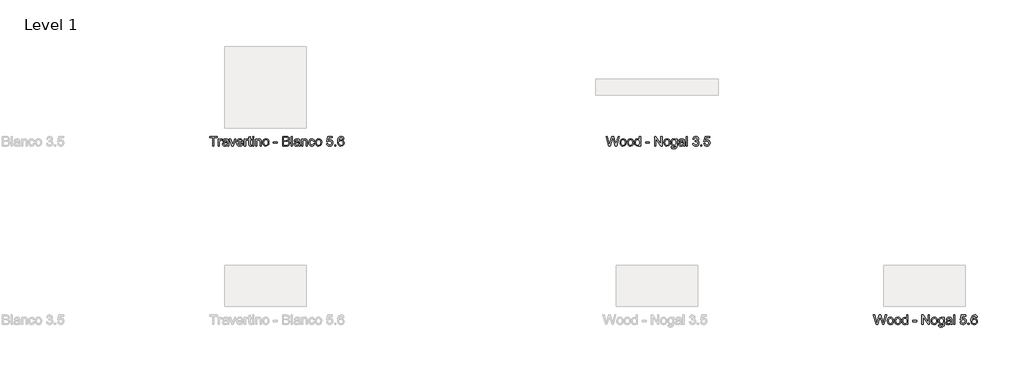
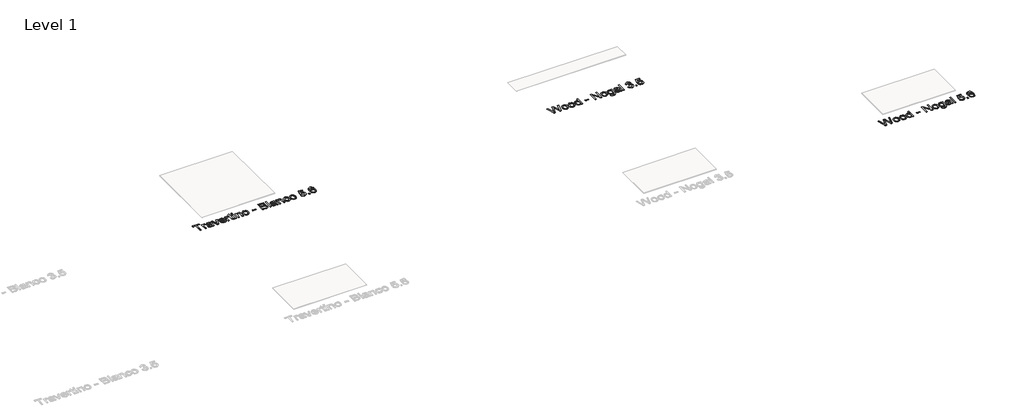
# One storey, part 21 of 80: 3 proxies.
"""IFC4 building model written with IfcOpenShell, lengths in millimetres."""

from ifc_helpers import new_model, si_unit, origin, origin_with_axes, place, context, project, spatial, polyline, outline, extrude, element, save

model = new_model("IFC4")

# Units and contexts
model_context = context("Model", 3, world=origin())
ifc_project = project(units=[si_unit("LENGTHUNIT", "METRE", prefix="MILLI")], contexts=[model_context])

# Site, building, storey
site = spatial("IfcSite", under=ifc_project)
building = spatial("IfcBuilding", under=site)
storey = spatial("IfcBuildingStorey", under=building, Name="Level 1", Elevation=0.0)

# Proxies
placement = place(None, origin())
element("IfcBuildingElementProxy", 1, Name="24\" Arial", ObjectType="24\" Arial", at=placement, inside=storey, context=model_context, shape_type="SweptSolid", body=[
    extrude(outline(polyline([(-15856.3068771, -10230.2191462), (-15856.3068771, -10126.8345308), (-15895.0761079, -10126.8345308), (-15895.0761079, -10112.0653001), (-15802.7684156, -10112.0653001), (-15802.7684156, -10126.8345308), (-15841.5376464, -10126.8345308), (-15841.5376464, -10230.2191462), (-15856.3068771, -10230.2191462)])), origin_with_axes(), (0.0, 0.0, 1.0), 2.0),
    extrude(outline(polyline([(-15787.9991848, -10230.2191462), (-15787.9991848, -10143.4499154), (-15775.0761079, -10143.4499154), (-15775.0761079, -10156.2864539), (-15765.903031, -10144.4595308), (-15756.6722617, -10141.6037616), (-15741.8453387, -10146.1614539), (-15746.778031, -10159.4018385), (-15757.1626464, -10156.3729924), (-15765.5136079, -10159.2864539), (-15770.8357233, -10167.363377), (-15773.2299541, -10184.613377), (-15773.2299541, -10230.2191462), (-15787.9991848, -10230.2191462)])), origin_with_axes(), (0.0, 0.0, 1.0), 2.0),
    extrude(outline(polyline([(-15677.2299541, -10219.1422231), (-15691.5520694, -10229.1518385), (-15707.3741848, -10232.0653001), (-15719.7167329, -10230.3128962), (-15728.8213002, -10225.0556847), (-15734.4354829, -10217.0725116), (-15736.3068771, -10207.1422231), (-15733.4799541, -10195.4595308), (-15726.0520694, -10186.9787616), (-15715.7107233, -10182.1326077), (-15702.9318771, -10179.9114539), (-15677.3164925, -10174.8345308), (-15677.2299541, -10171.5460693), (-15681.2972617, -10160.6422231), (-15697.6241848, -10156.3729924), (-15712.5664925, -10159.2143385), (-15719.6914925, -10169.2960693), (-15734.4607233, -10167.4499154), (-15728.0713002, -10153.0268385), (-15715.2059156, -10144.5749154), (-15695.7203387, -10141.6037616), (-15677.8213002, -10144.2287616), (-15667.7107233, -10150.8201077), (-15663.1818771, -10160.8441462), (-15662.4607233, -10173.7672231), (-15662.4607233, -10192.1422231), (-15661.7107233, -10217.800877), (-15658.7684156, -10230.2191462), (-15673.5376464, -10230.2191462), (-15677.2299541, -10219.1422231)]), holes=[polyline([(-15677.2299541, -10189.6037616), (-15701.0568771, -10194.1326077), (-15713.7636079, -10196.5268385), (-15719.5184156, -10200.4210693), (-15721.5376464, -10206.1037616), (-15717.1386079, -10214.0941462), (-15704.2299541, -10217.2960693), (-15689.2876464, -10213.7624154), (-15679.653031, -10205.2095308), (-15677.3164925, -10193.7864539), (-15677.2299541, -10189.6037616)])]), origin_with_axes(), (0.0, 0.0, 1.0), 2.0),
    extrude(outline(polyline([(-15620.8645694, -10230.2191462), (-15651.3838002, -10143.4499154), (-15635.7491848, -10143.4499154), (-15617.2588002, -10195.4306847), (-15611.6914925, -10212.9114539), (-15606.2395694, -10196.4114539), (-15587.6338002, -10143.4499154), (-15571.9991848, -10143.4499154), (-15602.1434156, -10230.2191462), (-15620.8645694, -10230.2191462)])), origin_with_axes(), (0.0, 0.0, 1.0), 2.0),
    extrude(outline(polyline([(-15498.3261079, -10204.3729924), (-15483.8453387, -10206.2191462), (-15489.0628867, -10217.1302039), (-15497.3886079, -10225.2864539), (-15508.6350021, -10230.3705885), (-15522.6145694, -10232.0653001), (-15539.9438964, -10229.1410212), (-15553.278031, -10220.3681847), (-15561.7804348, -10206.316502), (-15564.6145694, -10187.5556847), (-15561.7515887, -10168.1638577), (-15553.1626464, -10153.6614539), (-15540.0088002, -10144.6181847), (-15523.4511079, -10141.6037616), (-15507.4090406, -10144.6109731), (-15494.590531, -10153.6326077), (-15486.1854829, -10168.1061654), (-15483.3838002, -10187.4691462), (-15483.4703387, -10191.4499154), (-15549.8453387, -10191.4499154), (-15547.2888483, -10202.5052039), (-15541.3501464, -10210.6326077), (-15532.7792329, -10215.6302039), (-15522.3261079, -10217.2960693), (-15507.8453387, -10214.2095308), (-15498.3261079, -10204.3729924)]), holes=[polyline([(-15549.8453387, -10176.6806847), (-15498.153031, -10176.6806847), (-15504.0664925, -10163.2960693), (-15512.6770694, -10158.1037616), (-15523.5088002, -10156.3729924), (-15541.6963002, -10161.8970308), (-15547.418656, -10168.3549635), (-15549.8453387, -10176.6806847)])]), origin_with_axes(), (0.0, 0.0, 1.0), 2.0),
    extrude(outline(polyline([(-15468.6145694, -10230.2191462), (-15468.6145694, -10143.4499154), (-15455.6914925, -10143.4499154), (-15455.6914925, -10156.2864539), (-15446.5184156, -10144.4595308), (-15437.2876464, -10141.6037616), (-15422.4607233, -10146.1614539), (-15427.3934156, -10159.4018385), (-15437.778031, -10156.3729924), (-15446.1289925, -10159.2864539), (-15451.4511079, -10167.363377), (-15453.8453387, -10184.613377), (-15453.8453387, -10230.2191462), (-15468.6145694, -10230.2191462)])), origin_with_axes(), (0.0, 0.0, 1.0), 2.0),
    extrude(outline(polyline([(-15381.8453387, -10217.9018385), (-15379.9991848, -10230.6518385), (-15391.0472617, -10232.0653001), (-15403.4222617, -10229.613377), (-15409.5953387, -10223.1806847), (-15411.3838002, -10206.4210693), (-15411.3838002, -10158.2191462), (-15422.4607233, -10158.2191462), (-15422.4607233, -10143.4499154), (-15411.3838002, -10143.4499154), (-15411.3838002, -10122.363377), (-15396.6145694, -10113.6806847), (-15396.6145694, -10143.4499154), (-15381.8453387, -10143.4499154), (-15381.8453387, -10158.2191462), (-15396.6145694, -10158.2191462), (-15396.6145694, -10205.988377), (-15395.8357233, -10213.6037616), (-15393.3116848, -10216.300877), (-15388.278031, -10217.2960693), (-15381.8453387, -10217.9018385)])), origin_with_axes(), (0.0, 0.0, 1.0), 2.0),
    extrude(outline(polyline([(-15367.0761079, -10126.8345308), (-15367.0761079, -10112.0653001), (-15352.3068771, -10112.0653001), (-15352.3068771, -10126.8345308), (-15367.0761079, -10126.8345308)])), origin_with_axes(), (0.0, 0.0, 1.0), 2.0),
    extrude(outline(polyline([(-15367.0761079, -10230.2191462), (-15367.0761079, -10143.4499154), (-15352.3068771, -10143.4499154), (-15352.3068771, -10230.2191462), (-15367.0761079, -10230.2191462)])), origin_with_axes(), (0.0, 0.0, 1.0), 2.0),
    extrude(outline(polyline([(-15330.153031, -10230.2191462), (-15330.153031, -10143.4499154), (-15315.3838002, -10143.4499154), (-15315.3838002, -10155.5653001), (-15304.090531, -10145.0941462), (-15288.6722617, -10141.6037616), (-15274.7251464, -10144.4162616), (-15265.2059156, -10151.800877), (-15260.778031, -10162.6614539), (-15259.9991848, -10176.9403001), (-15259.9991848, -10230.2191462), (-15274.7684156, -10230.2191462), (-15274.7684156, -10178.9306847), (-15276.4703387, -10165.863377), (-15282.4847617, -10158.9547231), (-15292.6241848, -10156.3729924), (-15308.6482233, -10162.1710693), (-15313.699906, -10170.5725116), (-15315.3838002, -10184.1806847), (-15315.3838002, -10230.2191462), (-15330.153031, -10230.2191462)])), origin_with_axes(), (0.0, 0.0, 1.0), 2.0),
    extrude(outline(polyline([(-15243.3838002, -10186.8345308), (-15240.1890887, -10165.9138577), (-15230.6049541, -10151.2095308), (-15218.7636079, -10144.0052039), (-15204.5857233, -10141.6037616), (-15189.0700983, -10144.5280404), (-15176.6770694, -10153.300877), (-15168.5532714, -10167.2299635), (-15165.8453387, -10185.6229924), (-15170.6338002, -10211.9018385), (-15184.5809156, -10226.7720308), (-15204.5857233, -10232.0653001), (-15220.2888483, -10229.1518385), (-15232.6674541, -10220.4114539), (-15240.7047137, -10206.1903001), (-15243.3838002, -10186.8345308)]), holes=[polyline([(-15228.6145694, -10186.8056847), (-15226.9054348, -10200.1722712), (-15221.778031, -10209.6951077), (-15214.0616848, -10215.3958289), (-15204.5857233, -10217.2960693), (-15195.153031, -10215.3850116), (-15187.4511079, -10209.6518385), (-15182.3237041, -10200.0028001), (-15180.6145694, -10186.3441462), (-15182.3345214, -10173.3669827), (-15187.4943771, -10163.9739539), (-15195.2071175, -10158.2732327), (-15204.5857233, -10156.3729924), (-15214.0616848, -10158.2660212), (-15221.778031, -10163.9451077), (-15226.9054348, -10173.4463097), (-15228.6145694, -10186.8056847)])]), origin_with_axes(), (0.0, 0.0, 1.0), 2.0),
    extrude(outline(polyline([(-15110.4607233, -10195.1422231), (-15110.4607233, -10180.3729924), (-15064.3068771, -10180.3729924), (-15064.3068771, -10195.1422231), (-15110.4607233, -10195.1422231)])), origin_with_axes(), (0.0, 0.0, 1.0), 2.0),
    extrude(outline(polyline([(-14999.6914925, -10230.2191462), (-14999.6914925, -10112.0653001), (-14954.6049541, -10112.0653001), (-14932.5232233, -10115.5412616), (-14919.4847617, -10126.2287616), (-14914.7684156, -10141.3441462), (-14918.7347617, -10155.1470308), (-14930.7203387, -10165.6037616), (-14916.1674541, -10176.6229924), (-14911.0761079, -10194.9979924), (-14914.5520694, -10210.8778001), (-14923.1626464, -10222.1854924), (-14936.0136079, -10228.1854924), (-14954.9511079, -10230.2191462), (-14999.6914925, -10230.2191462)]), holes=[polyline([(-14984.9222617, -10215.4499154), (-14954.6338002, -10215.4499154), (-14943.6722617, -10214.8729924), (-14934.3982233, -10211.6566462), (-14928.2539925, -10205.0941462), (-14925.8453387, -10195.1422231), (-14928.6722617, -10183.6614539), (-14937.8309156, -10176.8104924), (-14956.0761079, -10174.8345308), (-14984.9222617, -10174.8345308), (-14984.9222617, -10215.4499154)]), polyline([(-14984.9222617, -10160.0653001), (-14957.9511079, -10160.0653001), (-14942.2011079, -10158.7960693), (-14932.7251464, -10153.3297231), (-14929.5376464, -10143.7095308), (-14932.5088002, -10134.0749154), (-14941.0184156, -10128.3778001), (-14959.9991848, -10126.8345308), (-14984.9222617, -10126.8345308), (-14984.9222617, -10160.0653001)])]), origin_with_axes(), (0.0, 0.0, 1.0), 2.0),
    extrude(outline(polyline([(-14892.6145694, -10230.2191462), (-14892.6145694, -10112.0653001), (-14877.8453387, -10112.0653001), (-14877.8453387, -10230.2191462), (-14892.6145694, -10230.2191462)])), origin_with_axes(), (0.0, 0.0, 1.0), 2.0),
    extrude(outline(polyline([(-14800.3068771, -10219.1422231), (-14814.6289925, -10229.1518385), (-14830.4511079, -10232.0653001), (-14842.793656, -10230.3128962), (-14851.8982233, -10225.0556847), (-14857.512406, -10217.0725116), (-14859.3838002, -10207.1422231), (-14856.5568771, -10195.4595308), (-14849.1289925, -10186.9787616), (-14838.7876464, -10182.1326077), (-14826.0088002, -10179.9114539), (-14800.3934156, -10174.8345308), (-14800.3068771, -10171.5460693), (-14804.3741848, -10160.6422231), (-14820.7011079, -10156.3729924), (-14835.6434156, -10159.2143385), (-14842.7684156, -10169.2960693), (-14857.5376464, -10167.4499154), (-14851.1482233, -10153.0268385), (-14838.2828387, -10144.5749154), (-14818.7972617, -10141.6037616), (-14800.8982233, -10144.2287616), (-14790.7876464, -10150.8201077), (-14786.2588002, -10160.8441462), (-14785.5376464, -10173.7672231), (-14785.5376464, -10192.1422231), (-14784.7876464, -10217.800877), (-14781.8453387, -10230.2191462), (-14796.6145694, -10230.2191462), (-14800.3068771, -10219.1422231)]), holes=[polyline([(-14800.3068771, -10189.6037616), (-14824.1338002, -10194.1326077), (-14836.840531, -10196.5268385), (-14842.5953387, -10200.4210693), (-14844.6145694, -10206.1037616), (-14840.215531, -10214.0941462), (-14827.3068771, -10217.2960693), (-14812.3645694, -10213.7624154), (-14802.7299541, -10205.2095308), (-14800.3934156, -10193.7864539), (-14800.3068771, -10189.6037616)])]), origin_with_axes(), (0.0, 0.0, 1.0), 2.0),
    extrude(outline(polyline([(-14765.2299541, -10230.2191462), (-14765.2299541, -10143.4499154), (-14750.4607233, -10143.4499154), (-14750.4607233, -10155.5653001), (-14739.1674541, -10145.0941462), (-14723.7491848, -10141.6037616), (-14709.8020694, -10144.4162616), (-14700.2828387, -10151.800877), (-14695.8549541, -10162.6614539), (-14695.0761079, -10176.9403001), (-14695.0761079, -10230.2191462), (-14709.8453387, -10230.2191462), (-14709.8453387, -10178.9306847), (-14711.5472617, -10165.863377), (-14717.5616848, -10158.9547231), (-14727.7011079, -10156.3729924), (-14743.7251464, -10162.1710693), (-14748.7768291, -10170.5725116), (-14750.4607233, -10184.1806847), (-14750.4607233, -10230.2191462), (-14765.2299541, -10230.2191462)])), origin_with_axes(), (0.0, 0.0, 1.0), 2.0),
    extrude(outline(polyline([(-14619.3838002, -10198.8345308), (-14604.6145694, -10200.6806847), (-14608.7323579, -10213.816502), (-14616.4703387, -10223.7431847), (-14627.1001464, -10229.9847712), (-14639.8934156, -10232.0653001), (-14655.6037521, -10229.1626558), (-14667.8886079, -10220.4547231), (-14675.8176944, -10206.3237135), (-14678.4607233, -10187.1518385), (-14673.9463002, -10162.6181847), (-14668.2491848, -10153.4198674), (-14660.1866848, -10146.8537616), (-14640.0953387, -10141.6037616), (-14627.6157714, -10143.4066462), (-14617.6386079, -10148.8153001), (-14610.481156, -10157.5412616), (-14606.4607233, -10169.2960693), (-14621.2299541, -10171.1422231), (-14628.0809156, -10160.0797231), (-14639.9799541, -10156.3729924), (-14649.5244252, -10158.1975116), (-14657.1001464, -10163.6710693), (-14662.043656, -10173.0893385), (-14663.6914925, -10186.7479924), (-14662.0797137, -10200.5905404), (-14657.2443771, -10210.0412616), (-14649.8056752, -10215.4823674), (-14640.3838002, -10217.2960693), (-14626.465531, -10212.7672231), (-14619.3838002, -10198.8345308)])), origin_with_axes(), (0.0, 0.0, 1.0), 2.0),
    extrude(outline(polyline([(-14595.3838002, -10186.8345308), (-14592.1890887, -10165.9138577), (-14582.6049541, -10151.2095308), (-14570.7636079, -10144.0052039), (-14556.5857233, -10141.6037616), (-14541.0700983, -10144.5280404), (-14528.6770694, -10153.300877), (-14520.5532714, -10167.2299635), (-14517.8453387, -10185.6229924), (-14522.6338002, -10211.9018385), (-14536.5809156, -10226.7720308), (-14556.5857233, -10232.0653001), (-14572.2888483, -10229.1518385), (-14584.6674541, -10220.4114539), (-14592.7047137, -10206.1903001), (-14595.3838002, -10186.8345308)]), holes=[polyline([(-14580.6145694, -10186.8056847), (-14578.9054348, -10200.1722712), (-14573.778031, -10209.6951077), (-14566.0616848, -10215.3958289), (-14556.5857233, -10217.2960693), (-14547.153031, -10215.3850116), (-14539.4511079, -10209.6518385), (-14534.3237041, -10200.0028001), (-14532.6145694, -10186.3441462), (-14534.3345214, -10173.3669827), (-14539.4943771, -10163.9739539), (-14547.2071175, -10158.2732327), (-14556.5857233, -10156.3729924), (-14566.0616848, -10158.2660212), (-14573.778031, -10163.9451077), (-14578.9054348, -10173.4463097), (-14580.6145694, -10186.8056847)])]), origin_with_axes(), (0.0, 0.0, 1.0), 2.0),
    extrude(outline(polyline([(-14458.7684156, -10198.8345308), (-14443.9991848, -10196.988377), (-14436.5568771, -10212.2047231), (-14421.1241848, -10217.2960693), (-14410.5376464, -10215.5256366), (-14402.6049541, -10210.2143385), (-14397.6506271, -10201.9751558), (-14395.9991848, -10191.4210693), (-14397.5460598, -10181.4835693), (-14402.1866848, -10173.8826077), (-14409.9571175, -10169.0580885), (-14420.8934156, -10167.4499154), (-14433.8597617, -10170.0172231), (-14442.153031, -10176.6806847), (-14456.9222617, -10174.8345308), (-14443.9991848, -10113.9114539), (-14386.7684156, -10113.9114539), (-14386.7684156, -10128.6806847), (-14432.0568771, -10128.6806847), (-14438.3741848, -10161.2191462), (-14427.8237041, -10154.8153001), (-14416.7684156, -10152.6806847), (-14402.9691367, -10155.3273193), (-14391.5136079, -10163.2672231), (-14383.8008675, -10175.3681847), (-14381.2299541, -10190.4979924), (-14383.5448579, -10205.2672231), (-14390.4895694, -10217.9018385), (-14403.7876464, -10228.5244347), (-14421.1818771, -10232.0653001), (-14435.6878867, -10229.7900597), (-14447.2443771, -10222.9643385), (-14455.1662521, -10212.3814058), (-14458.7684156, -10198.8345308)])), origin_with_axes(), (0.0, 0.0, 1.0), 2.0),
    extrude(outline(polyline([(-14360.9222617, -10230.2191462), (-14360.9222617, -10215.4499154), (-14346.153031, -10215.4499154), (-14346.153031, -10230.2191462), (-14360.9222617, -10230.2191462)])), origin_with_axes(), (0.0, 0.0, 1.0), 2.0),
    extrude(outline(polyline([(-14246.4607233, -10143.4499154), (-14261.2299541, -10145.2960693), (-14266.8261079, -10132.9787616), (-14273.5256271, -10128.3705885), (-14281.6241848, -10126.8345308), (-14294.9511079, -10130.4114539), (-14305.0328387, -10143.8393385), (-14309.2299541, -10170.1614539), (-14296.2059156, -10158.3778001), (-14280.0664925, -10154.5268385), (-14266.4222617, -10157.1590501), (-14254.9703387, -10165.0556847), (-14247.2035117, -10177.1205885), (-14244.6145694, -10192.2576077), (-14249.4895694, -10212.6374154), (-14262.903031, -10227.0604924), (-14282.2588002, -10232.0653001), (-14299.0148098, -10228.7479924), (-14312.3597617, -10218.7960693), (-14321.0893291, -10201.2287616), (-14323.9991848, -10175.0653001), (-14320.7684156, -10145.6494347), (-14311.0761079, -10125.5364539), (-14297.8429348, -10115.4330885), (-14280.7011079, -10112.0653001), (-14267.7419733, -10114.1494347), (-14257.3645694, -10120.4018385), (-14250.0953387, -10130.332127), (-14246.4607233, -10143.4499154)]), holes=[polyline([(-14309.2299541, -10192.0268385), (-14305.8116848, -10204.8201077), (-14296.7251464, -10214.1085693), (-14283.4126464, -10217.2960693), (-14273.6662521, -10215.644627), (-14266.0039925, -10210.6903001), (-14261.0388483, -10202.9018385), (-14259.3838002, -10192.7479924), (-14261.0172137, -10183.0015981), (-14265.9174541, -10175.5701077), (-14273.7095214, -10170.8645789), (-14284.0184156, -10169.2960693), (-14293.7503867, -10170.8645789), (-14301.8886079, -10175.5701077), (-14307.3946175, -10182.8213097), (-14309.2299541, -10192.0268385)])]), origin_with_axes(), (0.0, 0.0, 1.0), 2.0),
])
element("IfcBuildingElementProxy", 2, Name="24\" Arial", ObjectType="24\" Arial", at=placement, inside=storey, context=model_context, shape_type="SweptSolid", body=[
    extrude(outline(polyline([(-10996.3934156, -10230.2191462), (-11028.6145694, -10112.0653001), (-11013.3838002, -10112.0653001), (-10994.6914925, -10189.7191462), (-10988.9222617, -10213.6903001), (-10982.7491848, -10192.488377), (-10959.3261079, -10112.0653001), (-10937.3741848, -10112.0653001), (-10920.3549541, -10170.363377), (-10907.6914925, -10213.6903001), (-10902.0953387, -10190.4114539), (-10883.2299541, -10112.0653001), (-10867.9991848, -10112.0653001), (-10900.2491848, -10230.2191462), (-10916.028031, -10230.2191462), (-10944.3549541, -10139.0653001), (-10948.3068771, -10126.3441462), (-10952.7491848, -10141.6614539), (-10978.5664925, -10230.2191462), (-10996.3934156, -10230.2191462)])), origin_with_axes(), (0.0, 0.0, 1.0), 2.0),
    extrude(outline(polyline([(-10858.7684156, -10186.8345308), (-10855.5737041, -10165.9138577), (-10845.9895694, -10151.2095308), (-10834.1482233, -10144.0052039), (-10819.9703387, -10141.6037616), (-10804.4547137, -10144.5280404), (-10792.0616848, -10153.300877), (-10783.9378867, -10167.2299635), (-10781.2299541, -10185.6229924), (-10786.0184156, -10211.9018385), (-10799.965531, -10226.7720308), (-10819.9703387, -10232.0653001), (-10835.6734637, -10229.1518385), (-10848.0520694, -10220.4114539), (-10856.0893291, -10206.1903001), (-10858.7684156, -10186.8345308)]), holes=[polyline([(-10843.9991848, -10186.8056847), (-10842.2900502, -10200.1722712), (-10837.1626464, -10209.6951077), (-10829.4463002, -10215.3958289), (-10819.9703387, -10217.2960693), (-10810.5376464, -10215.3850116), (-10802.8357233, -10209.6518385), (-10797.7083194, -10200.0028001), (-10795.9991848, -10186.3441462), (-10797.7191367, -10173.3669827), (-10802.8789925, -10163.9739539), (-10810.5917329, -10158.2732327), (-10819.9703387, -10156.3729924), (-10829.4463002, -10158.2660212), (-10837.1626464, -10163.9451077), (-10842.2900502, -10173.4463097), (-10843.9991848, -10186.8056847)])]), origin_with_axes(), (0.0, 0.0, 1.0), 2.0),
    extrude(outline(polyline([(-10768.3068771, -10186.8345308), (-10765.1121656, -10165.9138577), (-10755.528031, -10151.2095308), (-10743.6866848, -10144.0052039), (-10729.5088002, -10141.6037616), (-10713.9931752, -10144.5280404), (-10701.6001464, -10153.300877), (-10693.4763483, -10167.2299635), (-10690.7684156, -10185.6229924), (-10695.5568771, -10211.9018385), (-10709.5039925, -10226.7720308), (-10729.5088002, -10232.0653001), (-10745.2119252, -10229.1518385), (-10757.590531, -10220.4114539), (-10765.6277906, -10206.1903001), (-10768.3068771, -10186.8345308)]), holes=[polyline([(-10753.5376464, -10186.8056847), (-10751.8285117, -10200.1722712), (-10746.7011079, -10209.6951077), (-10738.9847617, -10215.3958289), (-10729.5088002, -10217.2960693), (-10720.0761079, -10215.3850116), (-10712.3741848, -10209.6518385), (-10707.246781, -10200.0028001), (-10705.5376464, -10186.3441462), (-10707.2575983, -10173.3669827), (-10712.4174541, -10163.9739539), (-10720.1301944, -10158.2732327), (-10729.5088002, -10156.3729924), (-10738.9847617, -10158.2660212), (-10746.7011079, -10163.9451077), (-10751.8285117, -10173.4463097), (-10753.5376464, -10186.8056847)])]), origin_with_axes(), (0.0, 0.0, 1.0), 2.0),
    extrude(outline(polyline([(-10620.6145694, -10230.2191462), (-10620.6145694, -10216.2864539), (-10630.3862041, -10228.1205885), (-10643.8934156, -10232.0653001), (-10662.1818771, -10226.3537616), (-10675.1049541, -10210.4162616), (-10679.6914925, -10186.9210693), (-10675.465531, -10163.4114539), (-10670.1866848, -10154.0869347), (-10662.8020694, -10147.2287616), (-10643.9511079, -10141.6037616), (-10630.3357233, -10145.6278001), (-10620.6145694, -10156.0845308), (-10620.6145694, -10112.0653001), (-10605.8453387, -10112.0653001), (-10605.8453387, -10230.2191462), (-10620.6145694, -10230.2191462)]), holes=[polyline([(-10664.9222617, -10186.863377), (-10663.2563964, -10200.222752), (-10658.2588002, -10209.7239539), (-10650.996781, -10215.4030404), (-10642.5376464, -10217.2960693), (-10634.0821175, -10215.4895789), (-10627.0039925, -10210.0701077), (-10622.2119252, -10200.9366943), (-10620.6145694, -10187.988377), (-10622.2407714, -10173.832127), (-10627.1193771, -10164.0172231), (-10634.3777906, -10158.2840501), (-10643.1434156, -10156.3729924), (-10651.6890887, -10158.2083289), (-10658.6914925, -10163.7143385), (-10663.3645694, -10173.1722712), (-10664.9222617, -10186.863377)])]), origin_with_axes(), (0.0, 0.0, 1.0), 2.0),
    extrude(outline(polyline([(-10544.9222617, -10195.1422231), (-10544.9222617, -10180.3729924), (-10498.7684156, -10180.3729924), (-10498.7684156, -10195.1422231), (-10544.9222617, -10195.1422231)])), origin_with_axes(), (0.0, 0.0, 1.0), 2.0),
    extrude(outline(polyline([(-10434.153031, -10230.2191462), (-10434.153031, -10112.0653001), (-10418.3453387, -10112.0653001), (-10356.6145694, -10205.6710693), (-10356.6145694, -10112.0653001), (-10341.8453387, -10112.0653001), (-10341.8453387, -10230.2191462), (-10357.653031, -10230.2191462), (-10419.3838002, -10136.5845308), (-10419.3838002, -10230.2191462), (-10434.153031, -10230.2191462)])), origin_with_axes(), (0.0, 0.0, 1.0), 2.0),
    extrude(outline(polyline([(-10321.5376464, -10186.8345308), (-10318.3429348, -10165.9138577), (-10308.7588002, -10151.2095308), (-10296.9174541, -10144.0052039), (-10282.7395694, -10141.6037616), (-10267.2239444, -10144.5280404), (-10254.8309156, -10153.300877), (-10246.7071175, -10167.2299635), (-10243.9991848, -10185.6229924), (-10248.7876464, -10211.9018385), (-10262.7347617, -10226.7720308), (-10282.7395694, -10232.0653001), (-10298.4426944, -10229.1518385), (-10310.8213002, -10220.4114539), (-10318.8585598, -10206.1903001), (-10321.5376464, -10186.8345308)]), holes=[polyline([(-10306.7684156, -10186.8056847), (-10305.059281, -10200.1722712), (-10299.9318771, -10209.6951077), (-10292.215531, -10215.3958289), (-10282.7395694, -10217.2960693), (-10273.3068771, -10215.3850116), (-10265.6049541, -10209.6518385), (-10260.4775502, -10200.0028001), (-10258.7684156, -10186.3441462), (-10260.4883675, -10173.3669827), (-10265.6482233, -10163.9739539), (-10273.3609637, -10158.2732327), (-10282.7395694, -10156.3729924), (-10292.215531, -10158.2660212), (-10299.9318771, -10163.9451077), (-10305.059281, -10173.4463097), (-10306.7684156, -10186.8056847)])]), origin_with_axes(), (0.0, 0.0, 1.0), 2.0),
    extrude(outline(polyline([(-10231.0761079, -10237.6037616), (-10216.3068771, -10239.4499154), (-10211.5184156, -10247.238377), (-10197.1818771, -10250.5268385), (-10182.0664925, -10246.8056847), (-10174.8549541, -10236.363377), (-10173.8453387, -10219.1422231), (-10184.2443771, -10227.4499154), (-10196.9222617, -10230.2191462), (-10212.1494252, -10226.9955885), (-10223.5039925, -10217.3249154), (-10230.5676944, -10203.1470308), (-10232.9222617, -10186.4018385), (-10228.6963002, -10163.5124154), (-10216.465531, -10147.3153001), (-10197.6434156, -10141.6037616), (-10184.4679348, -10144.8345308), (-10173.8453387, -10154.5268385), (-10173.8453387, -10143.4499154), (-10159.0761079, -10143.4499154), (-10159.0761079, -10218.363377), (-10163.1145694, -10247.050877), (-10175.9078387, -10260.3922231), (-10197.4703387, -10265.2960693), (-10211.2119252, -10263.5689058), (-10222.0328387, -10258.3874154), (-10228.9739444, -10249.7371751), (-10231.0761079, -10237.6037616)]), holes=[polyline([(-10218.153031, -10185.3922231), (-10216.5773098, -10198.9390981), (-10211.8501464, -10208.2528001), (-10204.7431752, -10213.6506366), (-10196.028031, -10215.4499154), (-10187.3777906, -10213.6614539), (-10180.2347617, -10208.2960693), (-10175.4426944, -10199.1013577), (-10173.8453387, -10185.8249154), (-10175.4895694, -10173.0208289), (-10180.4222617, -10163.800877), (-10187.6698579, -10158.2299635), (-10196.2588002, -10156.3729924), (-10204.6926944, -10158.2011174), (-10211.7636079, -10163.6854924), (-10216.5556752, -10172.7684251), (-10218.153031, -10185.3922231)])]), origin_with_axes(), (0.0, 0.0, 1.0), 2.0),
    extrude(outline(polyline([(-10081.5376464, -10219.1422231), (-10095.8597617, -10229.1518385), (-10111.6818771, -10232.0653001), (-10124.0244252, -10230.3128962), (-10133.1289925, -10225.0556847), (-10138.7431752, -10217.0725116), (-10140.6145694, -10207.1422231), (-10137.7876464, -10195.4595308), (-10130.3597617, -10186.9787616), (-10120.0184156, -10182.1326077), (-10107.2395694, -10179.9114539), (-10081.6241848, -10174.8345308), (-10081.5376464, -10171.5460693), (-10085.6049541, -10160.6422231), (-10101.9318771, -10156.3729924), (-10116.8741848, -10159.2143385), (-10123.9991848, -10169.2960693), (-10138.7684156, -10167.4499154), (-10132.3789925, -10153.0268385), (-10119.5136079, -10144.5749154), (-10100.028031, -10141.6037616), (-10082.1289925, -10144.2287616), (-10072.0184156, -10150.8201077), (-10067.4895694, -10160.8441462), (-10066.7684156, -10173.7672231), (-10066.7684156, -10192.1422231), (-10066.0184156, -10217.800877), (-10063.0761079, -10230.2191462), (-10077.8453387, -10230.2191462), (-10081.5376464, -10219.1422231)]), holes=[polyline([(-10081.5376464, -10189.6037616), (-10105.3645694, -10194.1326077), (-10118.0713002, -10196.5268385), (-10123.8261079, -10200.4210693), (-10125.8453387, -10206.1037616), (-10121.4463002, -10214.0941462), (-10108.5376464, -10217.2960693), (-10093.5953387, -10213.7624154), (-10083.9607233, -10205.2095308), (-10081.6241848, -10193.7864539), (-10081.5376464, -10189.6037616)])]), origin_with_axes(), (0.0, 0.0, 1.0), 2.0),
    extrude(outline(polyline([(-10046.4607233, -10230.2191462), (-10046.4607233, -10112.0653001), (-10031.6914925, -10112.0653001), (-10031.6914925, -10230.2191462), (-10046.4607233, -10230.2191462)])), origin_with_axes(), (0.0, 0.0, 1.0), 2.0),
    extrude(outline(polyline([(-9967.0761079, -10198.8345308), (-9952.3068771, -10196.988377), (-9944.1578387, -10212.5364539), (-9928.9126464, -10217.2960693), (-9918.7876464, -10215.6590501), (-9910.9703387, -10210.7479924), (-9905.9727425, -10203.4210693), (-9904.3068771, -10194.5364539), (-9905.9583194, -10186.1025597), (-9910.9126464, -10179.2624154), (-9918.4126464, -10174.7299635), (-9927.7011079, -10173.2191462), (-9938.0568771, -10174.8345308), (-9936.4126464, -10160.0653001), (-9934.0472617, -10160.238377), (-9917.2876464, -10155.9979924), (-9911.7059156, -10150.6181847), (-9909.8453387, -10142.9595308), (-9915.2395694, -10131.4066462), (-9929.1434156, -10126.8345308), (-9943.2203387, -10131.4499154), (-9950.4607233, -10145.2960693), (-9965.2299541, -10143.4499154), (-9960.8813964, -10130.1878962), (-9953.1434156, -10120.2864539), (-9942.5568771, -10114.1205885), (-9929.6626464, -10112.0653001), (-9911.8501464, -10116.1181847), (-9899.3886079, -10127.1951077), (-9895.0761079, -10142.0941462), (-9899.1722617, -10155.7095308), (-9911.2876464, -10165.488377), (-9902.0424541, -10169.2239539), (-9895.1914925, -10175.5845308), (-9890.9511079, -10184.2239539), (-9889.5376464, -10194.7960693), (-9892.3645694, -10209.1903001), (-9900.8453387, -10221.2191462), (-9913.6458194, -10229.3537616), (-9929.4318771, -10232.0653001), (-9943.7107233, -10229.7503962), (-9955.3357233, -10222.8056847), (-9963.4198579, -10212.1830885), (-9967.0761079, -10198.8345308)])), origin_with_axes(), (0.0, 0.0, 1.0), 2.0),
    extrude(outline(polyline([(-9869.2299541, -10230.2191462), (-9869.2299541, -10215.4499154), (-9854.4607233, -10215.4499154), (-9854.4607233, -10230.2191462), (-9869.2299541, -10230.2191462)])), origin_with_axes(), (0.0, 0.0, 1.0), 2.0),
    extrude(outline(polyline([(-9830.4607233, -10198.8345308), (-9815.6914925, -10196.988377), (-9808.2491848, -10212.2047231), (-9792.8164925, -10217.2960693), (-9782.2299541, -10215.5256366), (-9774.2972617, -10210.2143385), (-9769.3429348, -10201.9751558), (-9767.6914925, -10191.4210693), (-9769.2383675, -10181.4835693), (-9773.8789925, -10173.8826077), (-9781.6494252, -10169.0580885), (-9792.5857233, -10167.4499154), (-9805.5520694, -10170.0172231), (-9813.8453387, -10176.6806847), (-9828.6145694, -10174.8345308), (-9815.6914925, -10113.9114539), (-9758.4607233, -10113.9114539), (-9758.4607233, -10128.6806847), (-9803.7491848, -10128.6806847), (-9810.0664925, -10161.2191462), (-9799.5160117, -10154.8153001), (-9788.4607233, -10152.6806847), (-9774.6614444, -10155.3273193), (-9763.2059156, -10163.2672231), (-9755.4931752, -10175.3681847), (-9752.9222617, -10190.4979924), (-9755.2371656, -10205.2672231), (-9762.1818771, -10217.9018385), (-9775.4799541, -10228.5244347), (-9792.8741848, -10232.0653001), (-9807.3801944, -10229.7900597), (-9818.9366848, -10222.9643385), (-9826.8585598, -10212.3814058), (-9830.4607233, -10198.8345308)])), origin_with_axes(), (0.0, 0.0, 1.0), 2.0),
])
element("IfcBuildingElementProxy", 3, Name="24\" Arial", ObjectType="24\" Arial", at=placement, inside=storey, context=model_context, shape_type="SweptSolid", body=[
    extrude(outline(polyline([(-7716.3934156, -12422.5921493), (-7748.6145694, -12304.4383031), (-7733.3838002, -12304.4383031), (-7714.6914925, -12382.0921493), (-7708.9222617, -12406.0633031), (-7702.7491848, -12384.86138), (-7679.3261079, -12304.4383031), (-7657.3741848, -12304.4383031), (-7640.3549541, -12362.73638), (-7627.6914925, -12406.0633031), (-7622.0953387, -12382.784457), (-7603.2299541, -12304.4383031), (-7587.9991848, -12304.4383031), (-7620.2491848, -12422.5921493), (-7636.028031, -12422.5921493), (-7664.3549541, -12331.4383031), (-7668.3068771, -12318.7171493), (-7672.7491848, -12334.034457), (-7698.5664925, -12422.5921493), (-7716.3934156, -12422.5921493)])), origin_with_axes(), (0.0, 0.0, 1.0), 2.0),
    extrude(outline(polyline([(-7578.7684156, -12379.2075339), (-7575.5737041, -12358.2868608), (-7565.9895694, -12343.5825339), (-7554.1482233, -12336.378207), (-7539.9703387, -12333.9767646), (-7524.4547137, -12336.9010435), (-7512.0616848, -12345.67388), (-7503.9378867, -12359.6029666), (-7501.2299541, -12377.9959954), (-7506.0184156, -12404.2748416), (-7519.965531, -12419.1450339), (-7539.9703387, -12424.4383031), (-7555.6734637, -12421.5248416), (-7568.0520694, -12412.784457), (-7576.0893291, -12398.5633031), (-7578.7684156, -12379.2075339)]), holes=[polyline([(-7563.9991848, -12379.1786877), (-7562.2900502, -12392.5452743), (-7557.1626464, -12402.0681108), (-7549.4463002, -12407.768832), (-7539.9703387, -12409.6690723), (-7530.5376464, -12407.7580146), (-7522.8357233, -12402.0248416), (-7517.7083194, -12392.3758031), (-7515.9991848, -12378.7171493), (-7517.7191367, -12365.7399858), (-7522.8789925, -12356.346957), (-7530.5917329, -12350.6462358), (-7539.9703387, -12348.7459954), (-7549.4463002, -12350.6390243), (-7557.1626464, -12356.3181108), (-7562.2900502, -12365.8193127), (-7563.9991848, -12379.1786877)])]), origin_with_axes(), (0.0, 0.0, 1.0), 2.0),
    extrude(outline(polyline([(-7488.3068771, -12379.2075339), (-7485.1121656, -12358.2868608), (-7475.528031, -12343.5825339), (-7463.6866848, -12336.378207), (-7449.5088002, -12333.9767646), (-7433.9931752, -12336.9010435), (-7421.6001464, -12345.67388), (-7413.4763483, -12359.6029666), (-7410.7684156, -12377.9959954), (-7415.5568771, -12404.2748416), (-7429.5039925, -12419.1450339), (-7449.5088002, -12424.4383031), (-7465.2119252, -12421.5248416), (-7477.590531, -12412.784457), (-7485.6277906, -12398.5633031), (-7488.3068771, -12379.2075339)]), holes=[polyline([(-7473.5376464, -12379.1786877), (-7471.8285117, -12392.5452743), (-7466.7011079, -12402.0681108), (-7458.9847617, -12407.768832), (-7449.5088002, -12409.6690723), (-7440.0761079, -12407.7580146), (-7432.3741848, -12402.0248416), (-7427.246781, -12392.3758031), (-7425.5376464, -12378.7171493), (-7427.2575983, -12365.7399858), (-7432.4174541, -12356.346957), (-7440.1301944, -12350.6462358), (-7449.5088002, -12348.7459954), (-7458.9847617, -12350.6390243), (-7466.7011079, -12356.3181108), (-7471.8285117, -12365.8193127), (-7473.5376464, -12379.1786877)])]), origin_with_axes(), (0.0, 0.0, 1.0), 2.0),
    extrude(outline(polyline([(-7340.6145694, -12422.5921493), (-7340.6145694, -12408.659457), (-7350.3862041, -12420.4935916), (-7363.8934156, -12424.4383031), (-7382.1818771, -12418.7267646), (-7395.1049541, -12402.7892646), (-7399.6914925, -12379.2940723), (-7395.465531, -12355.784457), (-7390.1866848, -12346.4599377), (-7382.8020694, -12339.6017646), (-7363.9511079, -12333.9767646), (-7350.3357233, -12338.0008031), (-7340.6145694, -12348.4575339), (-7340.6145694, -12304.4383031), (-7325.8453387, -12304.4383031), (-7325.8453387, -12422.5921493), (-7340.6145694, -12422.5921493)]), holes=[polyline([(-7384.9222617, -12379.23638), (-7383.2563964, -12392.595755), (-7378.2588002, -12402.096957), (-7370.996781, -12407.7760435), (-7362.5376464, -12409.6690723), (-7354.0821175, -12407.862582), (-7347.0039925, -12402.4431108), (-7342.2119252, -12393.3096973), (-7340.6145694, -12380.36138), (-7342.2407714, -12366.20513), (-7347.1193771, -12356.3902262), (-7354.3777906, -12350.6570531), (-7363.1434156, -12348.7459954), (-7371.6890887, -12350.581332), (-7378.6914925, -12356.0873416), (-7383.3645694, -12365.5452743), (-7384.9222617, -12379.23638)])]), origin_with_axes(), (0.0, 0.0, 1.0), 2.0),
    extrude(outline(polyline([(-7264.9222617, -12387.5152262), (-7264.9222617, -12372.7459954), (-7218.7684156, -12372.7459954), (-7218.7684156, -12387.5152262), (-7264.9222617, -12387.5152262)])), origin_with_axes(), (0.0, 0.0, 1.0), 2.0),
    extrude(outline(polyline([(-7154.153031, -12422.5921493), (-7154.153031, -12304.4383031), (-7138.3453387, -12304.4383031), (-7076.6145694, -12398.0440723), (-7076.6145694, -12304.4383031), (-7061.8453387, -12304.4383031), (-7061.8453387, -12422.5921493), (-7077.653031, -12422.5921493), (-7139.3838002, -12328.9575339), (-7139.3838002, -12422.5921493), (-7154.153031, -12422.5921493)])), origin_with_axes(), (0.0, 0.0, 1.0), 2.0),
    extrude(outline(polyline([(-7041.5376464, -12379.2075339), (-7038.3429348, -12358.2868608), (-7028.7588002, -12343.5825339), (-7016.9174541, -12336.378207), (-7002.7395694, -12333.9767646), (-6987.2239444, -12336.9010435), (-6974.8309156, -12345.67388), (-6966.7071175, -12359.6029666), (-6963.9991848, -12377.9959954), (-6968.7876464, -12404.2748416), (-6982.7347617, -12419.1450339), (-7002.7395694, -12424.4383031), (-7018.4426944, -12421.5248416), (-7030.8213002, -12412.784457), (-7038.8585598, -12398.5633031), (-7041.5376464, -12379.2075339)]), holes=[polyline([(-7026.7684156, -12379.1786877), (-7025.059281, -12392.5452743), (-7019.9318771, -12402.0681108), (-7012.215531, -12407.768832), (-7002.7395694, -12409.6690723), (-6993.3068771, -12407.7580146), (-6985.6049541, -12402.0248416), (-6980.4775502, -12392.3758031), (-6978.7684156, -12378.7171493), (-6980.4883675, -12365.7399858), (-6985.6482233, -12356.346957), (-6993.3609637, -12350.6462358), (-7002.7395694, -12348.7459954), (-7012.215531, -12350.6390243), (-7019.9318771, -12356.3181108), (-7025.059281, -12365.8193127), (-7026.7684156, -12379.1786877)])]), origin_with_axes(), (0.0, 0.0, 1.0), 2.0),
    extrude(outline(polyline([(-6951.0761079, -12429.9767646), (-6936.3068771, -12431.8229185), (-6931.5184156, -12439.61138), (-6917.1818771, -12442.8998416), (-6902.0664925, -12439.1786877), (-6894.8549541, -12428.73638), (-6893.8453387, -12411.5152262), (-6904.2443771, -12419.8229185), (-6916.9222617, -12422.5921493), (-6932.1494252, -12419.3685916), (-6943.5039925, -12409.6979185), (-6950.5676944, -12395.5200339), (-6952.9222617, -12378.7748416), (-6948.6963002, -12355.8854185), (-6936.465531, -12339.6883031), (-6917.6434156, -12333.9767646), (-6904.4679348, -12337.2075339), (-6893.8453387, -12346.8998416), (-6893.8453387, -12335.8229185), (-6879.0761079, -12335.8229185), (-6879.0761079, -12410.73638), (-6883.1145694, -12439.42388), (-6895.9078387, -12452.7652262), (-6917.4703387, -12457.6690723), (-6931.2119252, -12455.9419089), (-6942.0328387, -12450.7604185), (-6948.9739444, -12442.1101781), (-6951.0761079, -12429.9767646)]), holes=[polyline([(-6938.153031, -12377.7652262), (-6936.5773098, -12391.3121012), (-6931.8501464, -12400.6258031), (-6924.7431752, -12406.0236396), (-6916.028031, -12407.8229185), (-6907.3777906, -12406.034457), (-6900.2347617, -12400.6690723), (-6895.4426944, -12391.4743608), (-6893.8453387, -12378.1979185), (-6895.4895694, -12365.393832), (-6900.4222617, -12356.17388), (-6907.6698579, -12350.6029666), (-6916.2588002, -12348.7459954), (-6924.6926944, -12350.5741204), (-6931.7636079, -12356.0584954), (-6936.5556752, -12365.1414281), (-6938.153031, -12377.7652262)])]), origin_with_axes(), (0.0, 0.0, 1.0), 2.0),
    extrude(outline(polyline([(-6801.5376464, -12411.5152262), (-6815.8597617, -12421.5248416), (-6831.6818771, -12424.4383031), (-6844.0244252, -12422.6858993), (-6853.1289925, -12417.4286877), (-6858.7431752, -12409.4455146), (-6860.6145694, -12399.5152262), (-6857.7876464, -12387.8325339), (-6850.3597617, -12379.3517646), (-6840.0184156, -12374.5056108), (-6827.2395694, -12372.284457), (-6801.6241848, -12367.2075339), (-6801.5376464, -12363.9190723), (-6805.6049541, -12353.0152262), (-6821.9318771, -12348.7459954), (-6836.8741848, -12351.5873416), (-6843.9991848, -12361.6690723), (-6858.7684156, -12359.8229185), (-6852.3789925, -12345.3998416), (-6839.5136079, -12336.9479185), (-6820.028031, -12333.9767646), (-6802.1289925, -12336.6017646), (-6792.0184156, -12343.1931108), (-6787.4895694, -12353.2171493), (-6786.7684156, -12366.1402262), (-6786.7684156, -12384.5152262), (-6786.0184156, -12410.17388), (-6783.0761079, -12422.5921493), (-6797.8453387, -12422.5921493), (-6801.5376464, -12411.5152262)]), holes=[polyline([(-6801.5376464, -12381.9767646), (-6825.3645694, -12386.5056108), (-6838.0713002, -12388.8998416), (-6843.8261079, -12392.7940723), (-6845.8453387, -12398.4767646), (-6841.4463002, -12406.4671493), (-6828.5376464, -12409.6690723), (-6813.5953387, -12406.1354185), (-6803.9607233, -12397.5825339), (-6801.6241848, -12386.159457), (-6801.5376464, -12381.9767646)])]), origin_with_axes(), (0.0, 0.0, 1.0), 2.0),
    extrude(outline(polyline([(-6766.4607233, -12422.5921493), (-6766.4607233, -12304.4383031), (-6751.6914925, -12304.4383031), (-6751.6914925, -12422.5921493), (-6766.4607233, -12422.5921493)])), origin_with_axes(), (0.0, 0.0, 1.0), 2.0),
    extrude(outline(polyline([(-6687.0761079, -12391.2075339), (-6672.3068771, -12389.36138), (-6664.8645694, -12404.5777262), (-6649.4318771, -12409.6690723), (-6638.8453387, -12407.8986396), (-6630.9126464, -12402.5873416), (-6625.9583194, -12394.3481589), (-6624.3068771, -12383.7940723), (-6625.8537521, -12373.8565723), (-6630.4943771, -12366.2556108), (-6638.2648098, -12361.4310916), (-6649.2011079, -12359.8229185), (-6662.1674541, -12362.3902262), (-6670.4607233, -12369.0536877), (-6685.2299541, -12367.2075339), (-6672.3068771, -12306.284457), (-6615.0761079, -12306.284457), (-6615.0761079, -12321.0536877), (-6660.3645694, -12321.0536877), (-6666.6818771, -12353.5921493), (-6656.1313964, -12347.1883031), (-6645.0761079, -12345.0536877), (-6631.2768291, -12347.7003223), (-6619.8213002, -12355.6402262), (-6612.1085598, -12367.7411877), (-6609.5376464, -12382.8709954), (-6611.8525502, -12397.6402262), (-6618.7972617, -12410.2748416), (-6632.0953387, -12420.8974377), (-6649.4895694, -12424.4383031), (-6663.9955791, -12422.1630627), (-6675.5520694, -12415.3373416), (-6683.4739444, -12404.7544089), (-6687.0761079, -12391.2075339)])), origin_with_axes(), (0.0, 0.0, 1.0), 2.0),
    extrude(outline(polyline([(-6589.2299541, -12422.5921493), (-6589.2299541, -12407.8229185), (-6574.4607233, -12407.8229185), (-6574.4607233, -12422.5921493), (-6589.2299541, -12422.5921493)])), origin_with_axes(), (0.0, 0.0, 1.0), 2.0),
    extrude(outline(polyline([(-6474.7684156, -12335.8229185), (-6489.5376464, -12337.6690723), (-6495.1338002, -12325.3517646), (-6501.8333194, -12320.7435916), (-6509.9318771, -12319.2075339), (-6523.2588002, -12322.784457), (-6533.340531, -12336.2123416), (-6537.5376464, -12362.534457), (-6524.5136079, -12350.7508031), (-6508.3741848, -12346.8998416), (-6494.7299541, -12349.5320531), (-6483.278031, -12357.4286877), (-6475.5112041, -12369.4935916), (-6472.9222617, -12384.6306108), (-6477.7972617, -12405.0104185), (-6491.2107233, -12419.4334954), (-6510.5664925, -12424.4383031), (-6527.3225021, -12421.1209954), (-6540.6674541, -12411.1690723), (-6549.3970214, -12393.6017646), (-6552.3068771, -12367.4383031), (-6549.0761079, -12338.0224377), (-6539.3838002, -12317.909457), (-6526.1506271, -12307.8060916), (-6509.0088002, -12304.4383031), (-6496.0496656, -12306.5224377), (-6485.6722617, -12312.7748416), (-6478.403031, -12322.70513), (-6474.7684156, -12335.8229185)]), holes=[polyline([(-6537.5376464, -12384.3998416), (-6534.1193771, -12397.1931108), (-6525.0328387, -12406.4815723), (-6511.7203387, -12409.6690723), (-6501.9739444, -12408.01763), (-6494.3116848, -12403.0633031), (-6489.3465406, -12395.2748416), (-6487.6914925, -12385.1209954), (-6489.324906, -12375.3746012), (-6494.2251464, -12367.9431108), (-6502.0172137, -12363.237582), (-6512.3261079, -12361.6690723), (-6522.0580791, -12363.237582), (-6530.1963002, -12367.9431108), (-6535.7023098, -12375.1943127), (-6537.5376464, -12384.3998416)])]), origin_with_axes(), (0.0, 0.0, 1.0), 2.0),
])

save(model, "model.ifc")
